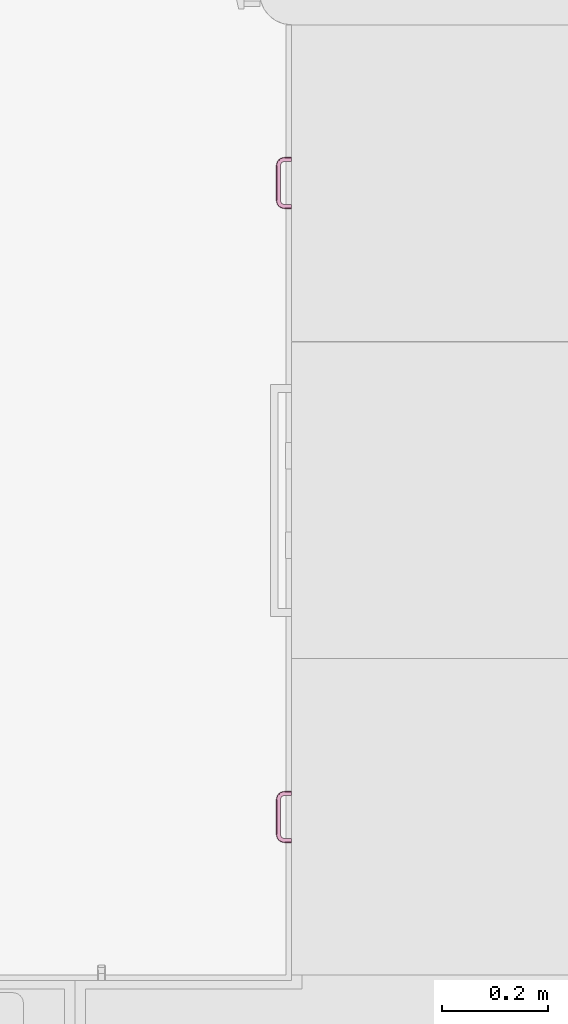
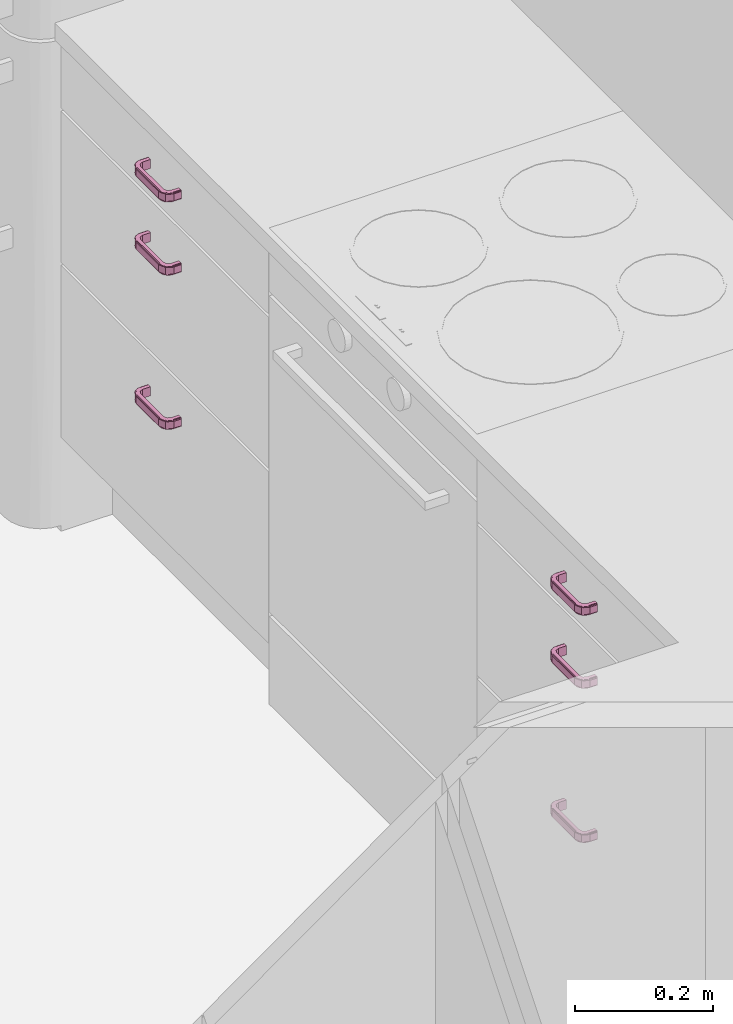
# One storey, part 46 of 65: 6 furnishings.
"""IFC2X3 building model written with IfcOpenShell, lengths in millimetres."""

from ifc_helpers import new_model, entity, si_unit, converted_unit, direction, frame, origin, place, context, subcontext, project, spatial, faceted_brep, source, transform, mapped, material, type_object, type_shapes, element, save


model = new_model("IFC2X3")

# Units and contexts
model_context = context("Model", 3, precision=0.01, world=origin(), true_north=direction((0.0, 1.0)))
body_context = subcontext(model_context, "Body", "Model", "MODEL_VIEW")
ifc_project = project(units=[si_unit("LENGTHUNIT", "METRE", prefix="MILLI"), si_unit("AREAUNIT", "SQUARE_METRE"), si_unit("VOLUMEUNIT", "CUBIC_METRE"), converted_unit("PLANEANGLEUNIT", "DEGREE", entity("IfcPlaneAngleMeasure", 0.017453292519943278), si_unit("PLANEANGLEUNIT", "RADIAN"), dimensions=[0, 0, 0, 0, 0, 0, 0])], contexts=[model_context])

# Site, building, storey, space
site_placement = place(None, origin())
site = spatial("IfcSite", under=ifc_project, at=site_placement, Name="Default", CompositionType="ELEMENT")
building_placement = place(site_placement, origin())
building = spatial("IfcBuilding", under=site, at=building_placement, CompositionType="ELEMENT")
storey_placement = place(building_placement, origin())
storey = spatial("IfcBuildingStorey", under=building, at=storey_placement, Name="Et. 1", CompositionType="ELEMENT", Elevation=0.0)
space_placement = place(storey_placement, origin())
space = spatial("IfcSpace", under=storey, at=space_placement, Name="101", CompositionType="ELEMENT", InteriorOrExteriorSpace="INTERNAL")

# Furnishings
ifc_material = material(Name="Focus - Kjøkken - Håndtak")
furniture_type = type_object("IfcFurnitureType", Name="Focus - Håndtak Skuff:Håndtak skuff", AssemblyPlace="NOTDEFINED", material=ifc_material)
shared_shape = source(origin(), body_context, "Body", "Brep", [
    faceted_brep([(-49.01997065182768, 0.0, -6.018434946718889), (-49.02222703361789, 0.0, 5.981564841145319), (-48.436706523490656, 0.0, 7.395888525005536), (-47.022603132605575, 0.0, 7.981940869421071), (-40.98040382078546, 0.0, 7.983076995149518), (-40.97739531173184, 0.0, -8.0169227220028), (-47.01959462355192, 0.0, -8.018058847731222), (-48.433918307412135, 0.0, -7.432538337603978), (47.022603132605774, 0.0, -8.000375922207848), (40.980403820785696, 0.0, -8.001512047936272), (40.97739531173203, 0.0, 7.9984876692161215), (47.01959462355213, 0.0, 7.999623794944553), (48.43391830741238, 0.0, 7.414103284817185), (49.01997065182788, 0.0, 5.999999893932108), (49.02222703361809, 0.0, -5.9999998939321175), (48.436706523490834, 0.0, -7.414323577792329), (-49.02222703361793, -13.0, 5.981564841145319), (-48.43670652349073, -13.0, 7.395888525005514), (-47.72965482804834, -13.0, 7.688914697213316), (-47.022603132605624, -13.0, 7.981940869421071), (-45.53091023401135, -16.601265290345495, 7.982221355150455), (-44.22341420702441, -19.757839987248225, 7.982467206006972), (-42.91591818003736, -22.91441468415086, 7.9827130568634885), (-40.437314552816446, -23.941085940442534, 7.983179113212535), (-37.95871092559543, -24.967757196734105, 7.983645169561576), (-35.48010729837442, -25.99442845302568, 7.9841112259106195), (-33.0015036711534, -27.02109970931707, 7.984577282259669), (-20.656464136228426, -27.021099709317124, 7.9868985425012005), (-8.311424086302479, -27.02109970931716, 7.989219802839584), (2.0160558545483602, -27.02109970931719, 7.991161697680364), (12.343535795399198, -27.02109970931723, 7.993103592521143), (20.653455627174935, -27.02109970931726, 7.9946661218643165), (32.9984951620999, -27.021099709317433, 7.996987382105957), (36.599760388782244, -25.529406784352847, 7.997664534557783), (39.75633502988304, -24.221910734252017, 7.9982580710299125), (42.912909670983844, -22.914414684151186, 7.998851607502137), (43.939580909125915, -20.435811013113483, 7.9990446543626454), (44.966252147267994, -17.957207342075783, 7.999237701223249), (45.99292338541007, -15.478603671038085, 7.999430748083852), (47.01959462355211, -13.0, 7.9996237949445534), (40.97739531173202, -13.0, 7.998487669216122), (38.64042956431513, -18.64193450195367, 7.998048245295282), (32.998495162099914, -20.97890029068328, 7.996987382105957), (-33.00150367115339, -20.978900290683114, 7.984577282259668), (-38.64343807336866, -18.64193450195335, 7.983516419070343), (-40.980403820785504, -13.0, 7.983076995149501), (-40.97739531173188, -13.0, -8.016922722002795), (47.022603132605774, -13.0, -8.000375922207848), (45.53091021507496, -16.601265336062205, -8.000656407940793), (44.2234141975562, -19.757840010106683, -8.000902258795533), (42.915918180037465, -22.914414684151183, -8.001148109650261), (40.43731455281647, -23.941085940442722, -8.001614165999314), (37.95871092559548, -24.967757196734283, -8.002080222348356), (35.4801072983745, -25.994428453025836, -8.002546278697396), (33.00150367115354, -27.021099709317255, -8.003012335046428), (20.656463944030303, -27.021099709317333, -8.005333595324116), (10.32898409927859, -27.02109970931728, -8.007275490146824), (0.0015042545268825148, -27.021099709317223, -8.009217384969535), (-10.325975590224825, -27.021099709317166, -8.011159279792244), (-20.653455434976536, -27.02109970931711, -8.013101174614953), (-32.998495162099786, -27.021099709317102, -8.01542243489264), (-36.599760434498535, -25.52940676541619, -8.016099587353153), (-39.75633505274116, -24.221910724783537, -8.016693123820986), (-42.91290967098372, -22.91441468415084, -8.017286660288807), (-43.939580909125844, -20.435811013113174, -8.01747970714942), (-44.966252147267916, -17.957207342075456, -8.017672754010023), (-45.992923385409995, -15.478603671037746, -8.017865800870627), (-47.01959462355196, -13.0, -8.01805884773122), (-38.64042956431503, -18.64193450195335, -8.01648329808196), (-32.99849516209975, -20.97890029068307, -8.01542243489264), (33.001503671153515, -20.978900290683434, -8.003012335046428), (38.64343807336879, -18.641934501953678, -8.00195147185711), (40.980403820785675, -13.0, -8.001512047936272), (-48.4339183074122, -13.0, -7.4325383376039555), (-48.80321719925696, -13.0, -6.541445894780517), (-49.0199706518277, -13.0, -6.018434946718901), (-44.41297448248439, -22.641402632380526, 7.75925959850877), (-46.35897290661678, -19.75591674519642, 7.743265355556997), (-40.20740985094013, -25.95405539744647, 7.81524837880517), (-44.3297556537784, -24.328628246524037, 5.9824471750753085), (-42.26670687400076, -25.1831710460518, 5.982835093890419), (-43.381530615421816, -25.002953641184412, 6.747992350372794), (-46.0388412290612, -20.202530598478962, 5.982125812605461), (-45.57655804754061, -22.341444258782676, 7.121035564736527), (-47.86558988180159, -17.923500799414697, 7.130313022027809), (-38.60103139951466, -27.651919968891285, 7.092454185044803), (-40.20365809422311, -26.037713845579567, 5.98322301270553), (-38.66544163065, -26.674863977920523, 5.983512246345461), (-36.60239285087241, -27.529406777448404, 5.983900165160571), (-41.08758750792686, -26.597477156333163, 6.856637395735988), (-41.49759864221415, -25.501746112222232, 5.982979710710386), (-36.52529670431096, -27.454202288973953, 7.791261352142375), (-47.50416098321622, -16.529274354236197, 7.765454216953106), (-47.530534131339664, -16.601265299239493, 5.981845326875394), (-42.18138620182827, -25.408731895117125, 7.397064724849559), (-45.50287349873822, -21.49647118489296, 5.982226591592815), (-33.00122595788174, -28.80444460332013, 6.5076290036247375), (-35.69791310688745, -28.538770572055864, 6.952460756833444), (-35.83328461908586, -27.847981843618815, 5.984044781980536), (-33.00112760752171, -29.021099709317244, 5.984577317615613), (-33.001393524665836, -28.435313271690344, 7.398790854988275), (-46.675991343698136, -18.66431412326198, 5.98200600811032), (-47.5282777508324, -16.601265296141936, -6.018154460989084), (-47.84685280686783, -15.832157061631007, -6.018214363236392), (-36.527810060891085, -27.502698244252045, -7.799689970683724), (-39.75445657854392, -26.35751445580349, -7.77789246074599), (-47.6505824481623, -18.599695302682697, -7.127107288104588), (-46.03658484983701, -20.202530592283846, -6.017873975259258), (-46.67373496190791, -18.66431412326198, -6.017993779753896), (-47.70896034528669, -16.048754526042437, -7.749127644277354), (-46.59154452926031, -19.340507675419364, -7.762569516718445), (-46.373359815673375, -21.540484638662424, -6.783304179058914), (-45.18204206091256, -22.26557941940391, -6.017713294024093), (-45.500617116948, -21.49647118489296, -6.017773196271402), (-37.92215596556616, -27.864246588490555, -7.16487889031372), (-42.34010114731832, -25.57521654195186, -7.156001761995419), (-40.20140170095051, -26.037713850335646, -6.016776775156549), (-45.407337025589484, -22.179992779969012, -7.431969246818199), (-42.63993947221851, -24.41151305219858, -7.794063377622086), (-44.52051892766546, -23.855367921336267, -6.870601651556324), (-32.998605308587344, -28.43531327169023, -7.429636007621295), (-36.600136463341, -27.529406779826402, -6.016099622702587), (-41.49534226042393, -25.501746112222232, -6.0170200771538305), (-44.327499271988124, -24.32862824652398, -6.017552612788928), (-32.99855023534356, -27.728206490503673, -7.7225292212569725), (-48.53745944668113, -15.696603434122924, -6.986734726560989), (-32.99887122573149, -29.021099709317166, -6.015422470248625), (-38.663185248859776, -26.674863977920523, -6.016487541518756), (-15.492613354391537, -28.43531328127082, 7.402083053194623), (20.6538311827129, -29.021099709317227, 5.994666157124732), (32.99860530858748, -28.435313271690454, 7.4112009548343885), (16.49860559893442, -28.435313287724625, 7.408098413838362), (-3.14758080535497, -28.397558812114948, 7.441176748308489), (32.99855023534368, -27.728206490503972, 7.704094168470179), (32.99887122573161, -29.02109970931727, 5.996987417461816), (-20.65608796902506, -29.0210997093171, 5.986898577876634), (-10.328607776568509, -29.02109970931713, 5.988840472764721), (10.326351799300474, -29.02109970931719, 5.99272426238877), (-0.0011279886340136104, -29.021099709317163, 5.990782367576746), (-15.489824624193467, -28.435313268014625, -7.426343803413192), (-8.308791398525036, -29.02109970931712, -6.010779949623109), (-20.653831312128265, -29.02109970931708, -6.013101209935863), (20.656087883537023, -29.021099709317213, -6.005333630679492), (12.346168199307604, -29.02109970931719, -6.006896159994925), (2.0186884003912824, -29.021099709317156, -6.008838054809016), (16.501393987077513, -28.435313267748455, -7.42032843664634), (33.001393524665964, -28.43531327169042, -7.417225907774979), (33.00122595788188, -28.80444460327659, -6.526064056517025), (33.00112760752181, -29.021099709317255, -6.003012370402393), (-3.1447921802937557, -28.47208571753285, -7.386268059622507), (42.6399395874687, -24.41151297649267, 7.7756283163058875), (39.75445668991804, -26.3575143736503, 7.759457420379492), (45.95258191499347, -20.20593789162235, 7.831449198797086), (44.32749927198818, -24.328628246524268, 5.999117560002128), (45.18204205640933, -22.26557943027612, 5.999278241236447), (45.00168074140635, -23.380259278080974, 6.764611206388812), (40.20140169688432, -26.03771385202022, 5.998341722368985), (42.340101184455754, -25.575216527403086, 7.137566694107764), (37.9221559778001, -27.86424657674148, 7.146443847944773), (47.65058242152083, -18.599695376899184, 7.108672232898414), (46.03658484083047, -20.20253061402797, 5.999438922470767), (46.67373496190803, -18.664314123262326, 5.999558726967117), (47.528277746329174, -16.60126530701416, 5.9997194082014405), (46.596183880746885, -21.08629578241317, 6.8731247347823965), (45.500617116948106, -21.4964711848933, 5.999338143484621), (47.452733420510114, -16.52382932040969, 7.8070518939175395), (36.52781014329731, -27.502698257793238, 7.781254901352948), (36.60013646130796, -27.52940678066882, 5.997664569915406), (45.40733698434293, -22.17999283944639, 7.413534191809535), (41.49534226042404, -25.501746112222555, 5.998585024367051), (48.80321719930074, -13.0, 6.523010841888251), (48.53745943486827, -15.696603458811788, 6.968299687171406), (47.84685280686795, -15.832157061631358, 5.999779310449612), (49.01997065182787, -13.0, 5.999999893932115), (48.43391830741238, -13.0, 7.414103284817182), (38.66318524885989, -26.674863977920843, 5.998052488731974), (36.60239284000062, -27.52940678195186, -6.002335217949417), (35.83328461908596, -27.847981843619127, -6.002479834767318), (47.504160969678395, -16.529274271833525, -7.783889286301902), (46.35897298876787, -19.755916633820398, -7.761700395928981), (38.60103132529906, -27.651919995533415, -7.110889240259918), (40.20365807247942, -26.037713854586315, -6.00165806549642), (38.66544163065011, -26.67486397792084, -6.001947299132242), (36.050207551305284, -27.710414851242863, -7.733378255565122), (39.34196320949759, -26.593001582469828, -7.746411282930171), (41.54175600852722, -26.374632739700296, -6.766773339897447), (42.26670686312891, -25.183171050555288, -6.001270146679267), (41.49759864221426, -25.501746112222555, -6.001414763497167), (47.86558989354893, -17.923500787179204, -7.148748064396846), (45.57655806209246, -22.341444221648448, -7.139470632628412), (46.03884122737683, -20.20253060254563, -6.000560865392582), (42.18138614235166, -25.408731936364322, -7.415499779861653), (44.412974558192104, -22.64140251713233, -7.777694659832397), (43.85665573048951, -24.521808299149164, -6.85398393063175), (48.436706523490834, -13.0, -7.414323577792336), (47.530534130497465, -16.601265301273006, -6.000280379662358), (45.50287349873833, -21.496471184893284, -6.000661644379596), (44.3297556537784, -24.32862824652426, -6.000882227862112), (47.729654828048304, -13.0, -7.707349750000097), (35.697913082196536, -28.538770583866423, -6.9708957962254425), (49.02222703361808, -13.0, -5.999999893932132), (46.675991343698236, -18.6643141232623, -6.000441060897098)], [[[0, 1, 2, 3, 4, 5, 6, 7]], [[8, 9, 10, 11, 12, 13, 14, 15]], [[16, 17, 2, 1]], [[2, 17, 18, 19, 3]], [[4, 3, 19, 20, 21, 22, 23, 24, 25, 26, 27, 28, 29, 30, 31, 32, 33, 34, 35, 36, 37, 38, 39, 11, 10, 40, 41, 42, 43, 44, 45]], [[5, 4, 45, 46]], [[9, 8, 47, 48, 49, 50, 51, 52, 53, 54, 55, 56, 57, 58, 59, 60, 61, 62, 63, 64, 65, 66, 67, 6, 5, 46, 68, 69, 70, 71, 72]], [[67, 73, 7, 6]], [[7, 73, 74, 75, 0]], [[1, 0, 75, 16]], [[76, 21, 77]], [[78, 24, 23]], [[79, 80, 81]], [[82, 83, 84]], [[85, 86, 87, 88]], [[89, 80, 90, 86]], [[91, 24, 78]], [[92, 77, 20]], [[17, 93, 84]], [[94, 89, 85]], [[83, 82, 95, 79]], [[88, 96, 97]], [[77, 84, 83]], [[23, 76, 78]], [[89, 94, 81]], [[22, 76, 23]], [[92, 17, 84]], [[19, 18, 17, 92]], [[96, 88, 98, 99]], [[100, 26, 91]], [[76, 77, 83]], [[20, 19, 92]], [[94, 76, 83]], [[21, 76, 22]], [[21, 20, 77]], [[84, 77, 92]], [[93, 17, 16]], [[84, 93, 101, 82]], [[94, 83, 81]], [[83, 79, 81]], [[80, 89, 81]], [[86, 85, 89]], [[76, 94, 78]], [[94, 85, 78]], [[91, 78, 85]], [[85, 97, 91]], [[91, 26, 25, 24]], [[97, 96, 100]], [[91, 97, 100]], [[88, 97, 85]], [[44, 68, 46, 45]], [[43, 69, 68, 44]], [[74, 102, 103, 75]], [[104, 105, 61]], [[106, 107, 108, 102]], [[109, 110, 106]], [[111, 112, 113, 107]], [[105, 114, 115]], [[115, 114, 116]], [[110, 64, 117]], [[118, 62, 105]], [[106, 110, 117]], [[117, 119, 111]], [[120, 121, 114]], [[115, 116, 122, 123]], [[112, 111, 119]], [[111, 106, 117]], [[63, 118, 64]], [[104, 120, 114]], [[60, 124, 120, 104]], [[109, 125, 73]], [[125, 109, 106]], [[118, 105, 115]], [[61, 60, 104]], [[118, 115, 119]], [[62, 118, 63]], [[62, 61, 105]], [[114, 105, 104]], [[121, 120, 126]], [[114, 121, 127, 116]], [[106, 111, 107]], [[118, 119, 117]], [[115, 123, 119]], [[112, 119, 123]], [[64, 118, 117]], [[125, 74, 73]], [[102, 74, 125]], [[102, 125, 106]], [[73, 67, 109]], [[66, 65, 64, 110]], [[110, 109, 66]], [[109, 67, 66]], [[122, 116, 127, 121, 126, 99, 98, 88, 87, 86, 90, 80, 79, 123]], [[79, 95, 82, 101, 93, 16, 75, 103, 102, 108, 107, 113, 112, 123]], [[128, 27, 100]], [[129, 130, 131]], [[29, 132, 131]], [[31, 130, 133, 32]], [[27, 26, 100]], [[129, 134, 130]], [[135, 100, 96, 99]], [[128, 100, 135, 136]], [[31, 30, 29, 131]], [[136, 132, 128]], [[31, 131, 130]], [[28, 27, 128]], [[132, 137, 131]], [[28, 132, 29]], [[136, 138, 137, 132]], [[28, 128, 132]], [[137, 129, 131]], [[69, 43, 42, 70]], [[139, 140, 141, 126, 120]], [[142, 143, 144, 145, 146, 147, 148]], [[55, 146, 145, 56]], [[139, 59, 58]], [[144, 149, 145]], [[55, 54, 146]], [[139, 120, 124, 60, 59]], [[58, 149, 139]], [[149, 56, 145]], [[140, 149, 144]], [[58, 57, 56, 149]], [[140, 139, 149]], [[126, 141, 140, 144, 143, 142, 148, 134, 129, 137, 138, 136, 135, 99]], [[150, 34, 151]], [[152, 37, 36]], [[153, 154, 155]], [[156, 157, 158]], [[159, 160, 161, 162]], [[163, 154, 164, 160]], [[165, 37, 152]], [[166, 151, 33]], [[130, 167, 158]], [[168, 163, 159]], [[157, 156, 169, 153]], [[162, 170, 171]], [[151, 158, 157]], [[36, 150, 152]], [[163, 168, 155]], [[35, 150, 36]], [[166, 130, 158]], [[32, 133, 130, 166]], [[170, 162, 172, 173]], [[174, 39, 165]], [[150, 151, 157]], [[33, 32, 166]], [[168, 150, 157]], [[34, 150, 35]], [[34, 33, 151]], [[158, 151, 166]], [[167, 130, 134]], [[158, 167, 175, 156]], [[168, 157, 155]], [[157, 153, 155]], [[154, 163, 155]], [[160, 159, 163]], [[150, 168, 152]], [[168, 159, 152]], [[165, 152, 159]], [[159, 171, 165]], [[165, 39, 38, 37]], [[171, 170, 174]], [[165, 171, 174]], [[162, 171, 159]], [[41, 71, 70, 42]], [[40, 72, 71, 41]], [[147, 176, 177, 148]], [[178, 179, 48]], [[180, 181, 182, 176]], [[183, 184, 180]], [[185, 186, 187, 181]], [[179, 188, 189]], [[189, 188, 190]], [[184, 51, 191]], [[192, 49, 179]], [[180, 184, 191]], [[191, 193, 185]], [[194, 195, 188]], [[189, 190, 196, 197]], [[186, 185, 193]], [[193, 191, 192]], [[50, 192, 51]], [[178, 194, 188]], [[47, 198, 194, 178]], [[183, 199, 146]], [[199, 183, 180]], [[192, 179, 189]], [[48, 47, 178]], [[192, 189, 193]], [[49, 192, 50]], [[49, 48, 179]], [[188, 179, 178]], [[195, 194, 200]], [[188, 195, 201, 190]], [[181, 180, 185]], [[180, 191, 185]], [[189, 197, 193]], [[186, 193, 197]], [[51, 192, 191]], [[199, 147, 146]], [[176, 147, 199]], [[176, 199, 180]], [[146, 54, 183]], [[53, 52, 51, 184]], [[184, 183, 53]], [[183, 54, 53]], [[196, 190, 201, 195, 200, 173, 172, 162, 161, 160, 164, 154, 153, 197]], [[153, 169, 156, 175, 167, 134, 148, 177, 176, 182, 181, 187, 186, 197]], [[13, 12, 174, 170, 173]], [[174, 12, 11, 39]], [[72, 40, 10, 9]], [[8, 15, 194, 198, 47]], [[194, 15, 14, 200]], [[173, 200, 14, 13]]]),
])
type_shapes(furniture_type, [shared_shape])
for number, where, z_axis, x_axis, name in (
    (1, (15442.009586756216, 12654.18095768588, 805.0), (0.0, 0.0, 1.0), (0.0, -1.0, 0.0), "Focus - Håndtak Skuff:Håndtak skuff"),
    (2, (15442.009586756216, 12654.180957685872, 676.0), (0.0, 0.0, 1.0), (0.0, -1.0, 0.0), "Focus - Håndtak Skuff:Håndtak skuff"),
    (3, (15442.009586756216, 12654.180957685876, 404.0), (0.0, 0.0, 1.0), (0.0, -1.0, 0.0), "Focus - Håndtak Skuff:Håndtak skuff"),
    (4, (15442.009586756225, 13856.058719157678, 805.0), (0.0, 0.0, 1.0), (0.0, -1.0, 0.0), "Focus - Håndtak Skuff:Håndtak skuff"),
    (5, (15442.009586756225, 13856.05871915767, 676.0), (0.0, 0.0, 1.0), (0.0, -1.0, 0.0), "Focus - Håndtak Skuff:Håndtak skuff"),
    (6, (15442.009586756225, 13856.058719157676, 404.0), (0.0, 0.0, 1.0), (0.0, -1.0, 0.0), "Focus - Håndtak Skuff:Håndtak skuff"),
):
    element("IfcFurnishingElement", number, at=place(space_placement, frame(where, z_axis=z_axis, x_axis=x_axis)), inside=space, type_object=furniture_type, material=ifc_material, Name=name, context=body_context, shape_type="MappedRepresentation", body=[
        mapped(shared_shape, transform((0.0, 0.0, 0.0), scale=1.0)),
    ])

save(model, "model.ifc")
